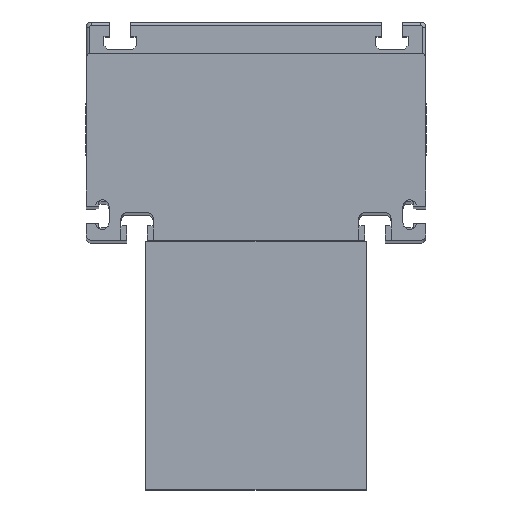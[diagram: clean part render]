
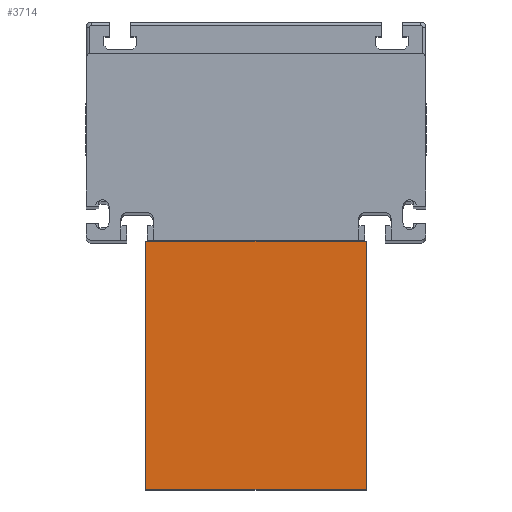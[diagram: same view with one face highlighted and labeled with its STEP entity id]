
A CAD part, top view. The second image highlights one B-rep face of the part: STEP entity #3714.
In plain terms, the highlighted planar face has unit normal (0, 0, 1).
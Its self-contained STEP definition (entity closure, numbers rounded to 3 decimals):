
#189 = CARTESIAN_POINT ( 'NONE',  ( -65., 0., 135. ) ) ;
#304 = VECTOR ( 'NONE', #11097, 1000. ) ;
#372 = AXIS2_PLACEMENT_3D ( 'NONE', #2699, #1656, #1837 ) ;
#643 = ORIENTED_EDGE ( 'NONE', *, *, #2583, .F. ) ;
#759 = LINE ( 'NONE', #7593, #8848 ) ;
#925 = VERTEX_POINT ( 'NONE', #189 ) ;
#938 = VECTOR ( 'NONE', #3798, 1000. ) ;
#1377 = CARTESIAN_POINT ( 'NONE',  ( 65., 0., 135. ) ) ;
#1379 = EDGE_CURVE ( 'NONE', #9303, #925, #4438, .T. ) ;
#1656 = DIRECTION ( 'NONE',  ( 0., 0., -1. ) ) ;
#1837 = DIRECTION ( 'NONE',  ( -1., 0., 0. ) ) ;
#1991 = CARTESIAN_POINT ( 'NONE',  ( 65., 146., 135. ) ) ;
#2191 = ORIENTED_EDGE ( 'NONE', *, *, #1379, .F. ) ;
#2583 = EDGE_CURVE ( 'NONE', #10683, #9303, #12456, .T. ) ;
#2699 = CARTESIAN_POINT ( 'NONE',  ( 65., 0., 135. ) ) ;
#2802 = LINE ( 'NONE', #1991, #6690 ) ;
#3204 = EDGE_CURVE ( 'NONE', #6261, #925, #759, .T. ) ;
#3714 = ADVANCED_FACE ( 'NONE', ( #11308 ), #11372, .F. ) ;
#3798 = DIRECTION ( 'NONE',  ( 0., -1., 0. ) ) ;
#3827 = CARTESIAN_POINT ( 'NONE',  ( 65., 0., 135. ) ) ;
#4438 = LINE ( 'NONE', #1377, #304 ) ;
#5041 = CARTESIAN_POINT ( 'NONE',  ( -65., 146., 135. ) ) ;
#6261 = VERTEX_POINT ( 'NONE', #5041 ) ;
#6690 = VECTOR ( 'NONE', #8638, 1000. ) ;
#7593 = CARTESIAN_POINT ( 'NONE',  ( -65., 0., 135. ) ) ;
#7701 = CARTESIAN_POINT ( 'NONE',  ( 65., 0., 135. ) ) ;
#8638 = DIRECTION ( 'NONE',  ( -1., 0., 0. ) ) ;
#8848 = VECTOR ( 'NONE', #9505, 1000. ) ;
#8908 = EDGE_CURVE ( 'NONE', #10683, #6261, #2802, .T. ) ;
#9303 = VERTEX_POINT ( 'NONE', #3827 ) ;
#9505 = DIRECTION ( 'NONE',  ( 0., -1., 0. ) ) ;
#10537 = EDGE_LOOP ( 'NONE', ( #11790, #2191, #643, #12117 ) ) ;
#10683 = VERTEX_POINT ( 'NONE', #12009 ) ;
#11097 = DIRECTION ( 'NONE',  ( -1., 0., 0. ) ) ;
#11308 = FACE_OUTER_BOUND ( 'NONE', #10537, .T. ) ;
#11372 = PLANE ( 'NONE',  #372 ) ;
#11790 = ORIENTED_EDGE ( 'NONE', *, *, #3204, .T. ) ;
#12009 = CARTESIAN_POINT ( 'NONE',  ( 65., 146., 135. ) ) ;
#12117 = ORIENTED_EDGE ( 'NONE', *, *, #8908, .T. ) ;
#12456 = LINE ( 'NONE', #7701, #938 ) ;
